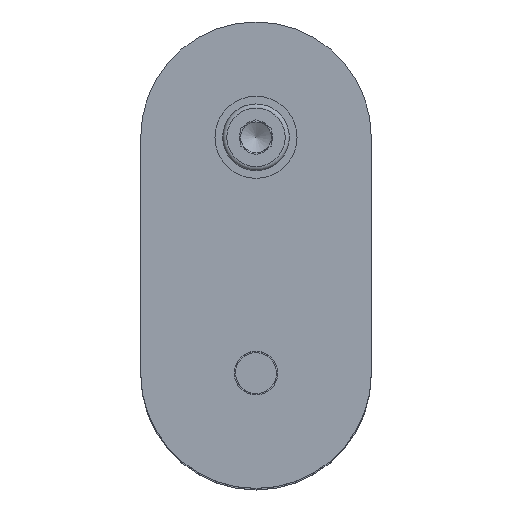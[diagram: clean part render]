
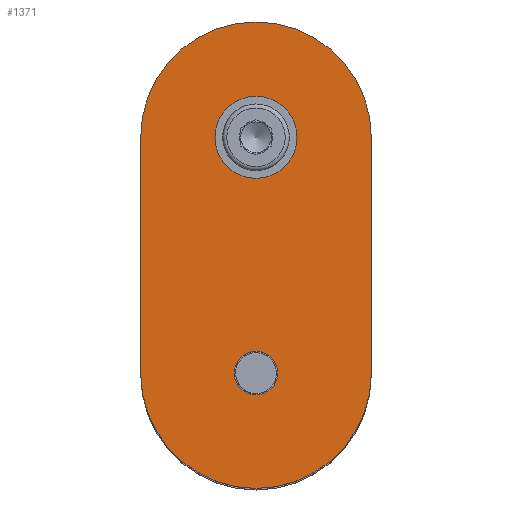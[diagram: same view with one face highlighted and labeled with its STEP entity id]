
A CAD part, top view. The second image highlights one B-rep face of the part: STEP entity #1371.
In plain terms, the highlighted planar face has unit normal (0, 0, 1).
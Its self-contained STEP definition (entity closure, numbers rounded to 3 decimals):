
#48 = CARTESIAN_POINT ( 'NONE',  ( 22.5, -46., 8. ) ) ;
#94 = FACE_BOUND ( 'NONE', #2005, .T. ) ;
#125 = CIRCLE ( 'NONE', #600, 22.5 ) ;
#158 = DIRECTION ( 'NONE',  ( 0., -1., 0. ) ) ;
#259 = VERTEX_POINT ( 'NONE', #1914 ) ;
#305 = CARTESIAN_POINT ( 'NONE',  ( 22.5, -46., 8. ) ) ;
#362 = AXIS2_PLACEMENT_3D ( 'NONE', #1387, #422, #577 ) ;
#363 = VERTEX_POINT ( 'NONE', #637 ) ;
#396 = CIRCLE ( 'NONE', #362, 22.5 ) ;
#406 = VERTEX_POINT ( 'NONE', #1310 ) ;
#408 = EDGE_CURVE ( 'NONE', #363, #406, #466, .T. ) ;
#422 = DIRECTION ( 'NONE',  ( 0., 0., 1. ) ) ;
#455 = CARTESIAN_POINT ( 'NONE',  ( 22.5, -46., 8. ) ) ;
#466 = LINE ( 'NONE', #1115, #1825 ) ;
#471 = ORIENTED_EDGE ( 'NONE', *, *, #737, .F. ) ;
#485 = DIRECTION ( 'NONE',  ( 1., 0., 0. ) ) ;
#577 = DIRECTION ( 'NONE',  ( -1., 0., 0. ) ) ;
#599 = DIRECTION ( 'NONE',  ( 1., 0., 0. ) ) ;
#600 = AXIS2_PLACEMENT_3D ( 'NONE', #455, #1617, #1098 ) ;
#637 = CARTESIAN_POINT ( 'NONE',  ( 45., -46., 8. ) ) ;
#692 = ORIENTED_EDGE ( 'NONE', *, *, #697, .F. ) ;
#697 = EDGE_CURVE ( 'NONE', #1092, #1092, #1518, .T. ) ;
#737 = EDGE_CURVE ( 'NONE', #1849, #1849, #2003, .T. ) ;
#746 = CARTESIAN_POINT ( 'NONE',  ( 22.5, 0., 8. ) ) ;
#852 = AXIS2_PLACEMENT_3D ( 'NONE', #48, #2044, #1545 ) ;
#906 = CARTESIAN_POINT ( 'NONE',  ( 26.75, 0., 8. ) ) ;
#923 = DIRECTION ( 'NONE',  ( 0., 0., 1. ) ) ;
#996 = DIRECTION ( 'NONE',  ( 0., 1., 0. ) ) ;
#1005 = CARTESIAN_POINT ( 'NONE',  ( 0., 0., 8. ) ) ;
#1042 = AXIS2_PLACEMENT_3D ( 'NONE', #746, #923, #599 ) ;
#1047 = EDGE_LOOP ( 'NONE', ( #1407, #1363, #1962, #1509 ) ) ;
#1077 = VECTOR ( 'NONE', #158, 1000. ) ;
#1092 = VERTEX_POINT ( 'NONE', #906 ) ;
#1098 = DIRECTION ( 'NONE',  ( 1., 0., 0. ) ) ;
#1115 = CARTESIAN_POINT ( 'NONE',  ( 45., 0., 8. ) ) ;
#1179 = EDGE_LOOP ( 'NONE', ( #692 ) ) ;
#1271 = CARTESIAN_POINT ( 'NONE',  ( 26.75, -46., 8. ) ) ;
#1283 = AXIS2_PLACEMENT_3D ( 'NONE', #305, #1456, #485 ) ;
#1310 = CARTESIAN_POINT ( 'NONE',  ( 45., 0., 8. ) ) ;
#1363 = ORIENTED_EDGE ( 'NONE', *, *, #408, .T. ) ;
#1371 = ADVANCED_FACE ( 'NONE', ( #1374, #2021, #94 ), #1395, .T. ) ;
#1374 = FACE_BOUND ( 'NONE', #1179, .T. ) ;
#1387 = CARTESIAN_POINT ( 'NONE',  ( 22.5, 0., 8. ) ) ;
#1395 = PLANE ( 'NONE',  #852 ) ;
#1407 = ORIENTED_EDGE ( 'NONE', *, *, #1808, .T. ) ;
#1436 = EDGE_CURVE ( 'NONE', #406, #1980, #396, .T. ) ;
#1456 = DIRECTION ( 'NONE',  ( 0., 0., 1. ) ) ;
#1462 = CARTESIAN_POINT ( 'NONE',  ( 0., 0., 8. ) ) ;
#1509 = ORIENTED_EDGE ( 'NONE', *, *, #1659, .T. ) ;
#1518 = CIRCLE ( 'NONE', #1042, 4.25 ) ;
#1545 = DIRECTION ( 'NONE',  ( 1., 0., 0. ) ) ;
#1617 = DIRECTION ( 'NONE',  ( 0., 0., 1. ) ) ;
#1659 = EDGE_CURVE ( 'NONE', #1980, #259, #1815, .T. ) ;
#1808 = EDGE_CURVE ( 'NONE', #259, #363, #125, .T. ) ;
#1815 = LINE ( 'NONE', #1462, #1077 ) ;
#1825 = VECTOR ( 'NONE', #996, 1000. ) ;
#1849 = VERTEX_POINT ( 'NONE', #1271 ) ;
#1914 = CARTESIAN_POINT ( 'NONE',  ( 0., -46., 8. ) ) ;
#1962 = ORIENTED_EDGE ( 'NONE', *, *, #1436, .T. ) ;
#1980 = VERTEX_POINT ( 'NONE', #1005 ) ;
#2003 = CIRCLE ( 'NONE', #1283, 4.25 ) ;
#2005 = EDGE_LOOP ( 'NONE', ( #471 ) ) ;
#2021 = FACE_OUTER_BOUND ( 'NONE', #1047, .T. ) ;
#2044 = DIRECTION ( 'NONE',  ( 0., 0., 1. ) ) ;
